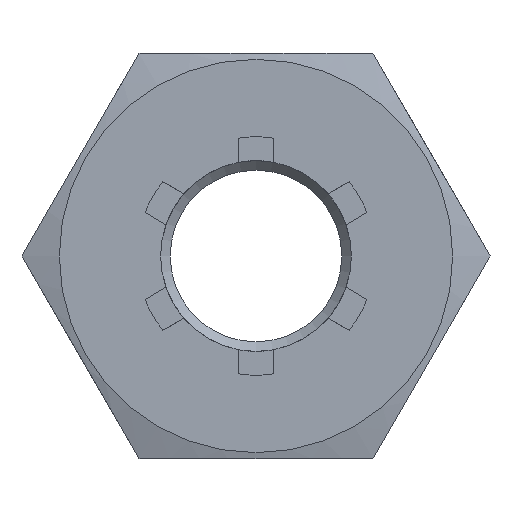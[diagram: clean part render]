
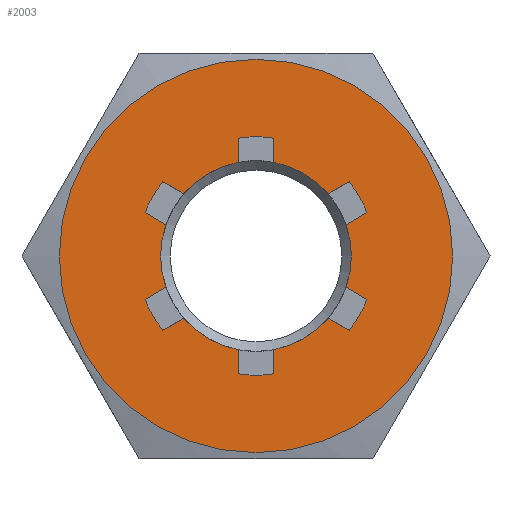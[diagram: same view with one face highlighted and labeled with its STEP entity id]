
A CAD part, left-side view. The second image highlights one B-rep face of the part: STEP entity #2003.
In plain terms, the highlighted planar face has unit normal (-1, 0, 0).
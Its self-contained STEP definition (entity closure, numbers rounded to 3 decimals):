
#20=PLANE('',#2127);
#209=LINE('',#2886,#339);
#210=LINE('',#2891,#340);
#211=LINE('',#2895,#341);
#212=LINE('',#2899,#342);
#213=LINE('',#2903,#343);
#214=LINE('',#2907,#344);
#215=LINE('',#2911,#345);
#216=LINE('',#2915,#346);
#217=LINE('',#2919,#347);
#218=LINE('',#2923,#348);
#219=LINE('',#2927,#349);
#220=LINE('',#2931,#350);
#339=VECTOR('',#2355,1000.);
#340=VECTOR('',#2358,1000.);
#341=VECTOR('',#2361,1000.);
#342=VECTOR('',#2364,1000.);
#343=VECTOR('',#2367,1000.);
#344=VECTOR('',#2370,1000.);
#345=VECTOR('',#2373,1000.);
#346=VECTOR('',#2376,1000.);
#347=VECTOR('',#2379,1000.);
#348=VECTOR('',#2382,1000.);
#349=VECTOR('',#2385,1000.);
#350=VECTOR('',#2388,1000.);
#487=ORIENTED_EDGE('',*,*,#1136,.T.);
#488=ORIENTED_EDGE('',*,*,#1137,.T.);
#489=ORIENTED_EDGE('',*,*,#1138,.T.);
#490=ORIENTED_EDGE('',*,*,#1139,.T.);
#491=ORIENTED_EDGE('',*,*,#1140,.T.);
#492=ORIENTED_EDGE('',*,*,#1141,.T.);
#493=ORIENTED_EDGE('',*,*,#1142,.T.);
#494=ORIENTED_EDGE('',*,*,#1143,.T.);
#495=ORIENTED_EDGE('',*,*,#1144,.T.);
#496=ORIENTED_EDGE('',*,*,#1145,.T.);
#497=ORIENTED_EDGE('',*,*,#1146,.T.);
#498=ORIENTED_EDGE('',*,*,#1147,.T.);
#499=ORIENTED_EDGE('',*,*,#1148,.T.);
#500=ORIENTED_EDGE('',*,*,#1149,.T.);
#501=ORIENTED_EDGE('',*,*,#1150,.T.);
#502=ORIENTED_EDGE('',*,*,#1151,.T.);
#503=ORIENTED_EDGE('',*,*,#1152,.T.);
#504=ORIENTED_EDGE('',*,*,#1153,.T.);
#505=ORIENTED_EDGE('',*,*,#1154,.T.);
#506=ORIENTED_EDGE('',*,*,#1155,.T.);
#507=ORIENTED_EDGE('',*,*,#1156,.T.);
#508=ORIENTED_EDGE('',*,*,#1157,.T.);
#509=ORIENTED_EDGE('',*,*,#1158,.T.);
#510=ORIENTED_EDGE('',*,*,#1159,.T.);
#511=ORIENTED_EDGE('',*,*,#1160,.F.);
#1136=EDGE_CURVE('',#1460,#1461,#209,.T.);
#1137=EDGE_CURVE('',#1461,#1462,#1666,.T.);
#1138=EDGE_CURVE('',#1462,#1463,#210,.T.);
#1139=EDGE_CURVE('',#1463,#1464,#1667,.T.);
#1140=EDGE_CURVE('',#1464,#1465,#211,.T.);
#1141=EDGE_CURVE('',#1465,#1466,#1668,.T.);
#1142=EDGE_CURVE('',#1466,#1467,#212,.T.);
#1143=EDGE_CURVE('',#1467,#1468,#1669,.T.);
#1144=EDGE_CURVE('',#1468,#1469,#213,.T.);
#1145=EDGE_CURVE('',#1469,#1470,#1670,.T.);
#1146=EDGE_CURVE('',#1470,#1471,#214,.T.);
#1147=EDGE_CURVE('',#1471,#1472,#1671,.T.);
#1148=EDGE_CURVE('',#1472,#1473,#215,.T.);
#1149=EDGE_CURVE('',#1473,#1474,#1672,.T.);
#1150=EDGE_CURVE('',#1474,#1475,#216,.T.);
#1151=EDGE_CURVE('',#1475,#1476,#1673,.T.);
#1152=EDGE_CURVE('',#1476,#1477,#217,.T.);
#1153=EDGE_CURVE('',#1477,#1478,#1674,.T.);
#1154=EDGE_CURVE('',#1478,#1479,#218,.T.);
#1155=EDGE_CURVE('',#1479,#1480,#1675,.T.);
#1156=EDGE_CURVE('',#1480,#1481,#219,.T.);
#1157=EDGE_CURVE('',#1481,#1482,#1676,.T.);
#1158=EDGE_CURVE('',#1482,#1483,#220,.T.);
#1159=EDGE_CURVE('',#1483,#1460,#1677,.T.);
#1160=EDGE_CURVE('',#1484,#1484,#1678,.T.);
#1460=VERTEX_POINT('',#2887);
#1461=VERTEX_POINT('',#2888);
#1462=VERTEX_POINT('',#2890);
#1463=VERTEX_POINT('',#2892);
#1464=VERTEX_POINT('',#2894);
#1465=VERTEX_POINT('',#2896);
#1466=VERTEX_POINT('',#2898);
#1467=VERTEX_POINT('',#2900);
#1468=VERTEX_POINT('',#2902);
#1469=VERTEX_POINT('',#2904);
#1470=VERTEX_POINT('',#2906);
#1471=VERTEX_POINT('',#2908);
#1472=VERTEX_POINT('',#2910);
#1473=VERTEX_POINT('',#2912);
#1474=VERTEX_POINT('',#2914);
#1475=VERTEX_POINT('',#2916);
#1476=VERTEX_POINT('',#2918);
#1477=VERTEX_POINT('',#2920);
#1478=VERTEX_POINT('',#2922);
#1479=VERTEX_POINT('',#2924);
#1480=VERTEX_POINT('',#2926);
#1481=VERTEX_POINT('',#2928);
#1482=VERTEX_POINT('',#2930);
#1483=VERTEX_POINT('',#2932);
#1484=VERTEX_POINT('',#2935);
#1666=CIRCLE('',#2128,4.);
#1667=CIRCLE('',#2129,4.999);
#1668=CIRCLE('',#2130,4.);
#1669=CIRCLE('',#2131,4.999);
#1670=CIRCLE('',#2132,4.);
#1671=CIRCLE('',#2133,4.999);
#1672=CIRCLE('',#2134,4.);
#1673=CIRCLE('',#2135,4.999);
#1674=CIRCLE('',#2136,4.);
#1675=CIRCLE('',#2137,4.999);
#1676=CIRCLE('',#2138,4.);
#1677=CIRCLE('',#2139,4.999);
#1678=CIRCLE('',#2140,8.25);
#1750=EDGE_LOOP('',(#487,#488,#489,#490,#491,#492,#493,#494,#495,#496,#497,
#498,#499,#500,#501,#502,#503,#504,#505,#506,#507,#508,#509,#510));
#1751=EDGE_LOOP('',(#511));
#1866=FACE_BOUND('',#1750,.T.);
#1867=FACE_BOUND('',#1751,.T.);
#2003=ADVANCED_FACE('',(#1866,#1867),#20,.T.);
#2127=AXIS2_PLACEMENT_3D('',#2885,#2353,#2354);
#2128=AXIS2_PLACEMENT_3D('',#2889,#2356,#2357);
#2129=AXIS2_PLACEMENT_3D('',#2893,#2359,#2360);
#2130=AXIS2_PLACEMENT_3D('',#2897,#2362,#2363);
#2131=AXIS2_PLACEMENT_3D('',#2901,#2365,#2366);
#2132=AXIS2_PLACEMENT_3D('',#2905,#2368,#2369);
#2133=AXIS2_PLACEMENT_3D('',#2909,#2371,#2372);
#2134=AXIS2_PLACEMENT_3D('',#2913,#2374,#2375);
#2135=AXIS2_PLACEMENT_3D('',#2917,#2377,#2378);
#2136=AXIS2_PLACEMENT_3D('',#2921,#2380,#2381);
#2137=AXIS2_PLACEMENT_3D('',#2925,#2383,#2384);
#2138=AXIS2_PLACEMENT_3D('',#2929,#2386,#2387);
#2139=AXIS2_PLACEMENT_3D('',#2933,#2389,#2390);
#2140=AXIS2_PLACEMENT_3D('',#2934,#2391,#2392);
#2353=DIRECTION('',(-1.,0.,0.));
#2354=DIRECTION('',(0.,0.,1.));
#2355=DIRECTION('',(0.,-0.866,0.5));
#2356=DIRECTION('',(1.,0.,0.));
#2357=DIRECTION('',(0.,0.,-1.));
#2358=DIRECTION('',(0.,0.866,0.5));
#2359=DIRECTION('',(1.,0.,0.));
#2360=DIRECTION('',(0.,0.,-1.));
#2361=DIRECTION('',(0.,-0.866,-0.5));
#2362=DIRECTION('',(1.,0.,0.));
#2363=DIRECTION('',(0.,0.,-1.));
#2364=DIRECTION('',(0.,0.,1.));
#2365=DIRECTION('',(1.,0.,0.));
#2366=DIRECTION('',(0.,0.,-1.));
#2367=DIRECTION('',(0.,0.,-1.));
#2368=DIRECTION('',(1.,0.,0.));
#2369=DIRECTION('',(0.,0.,-1.));
#2370=DIRECTION('',(0.,-0.866,0.5));
#2371=DIRECTION('',(1.,0.,0.));
#2372=DIRECTION('',(0.,0.,-1.));
#2373=DIRECTION('',(0.,0.866,-0.5));
#2374=DIRECTION('',(1.,0.,0.));
#2375=DIRECTION('',(0.,0.,-1.));
#2376=DIRECTION('',(0.,-0.866,-0.5));
#2377=DIRECTION('',(1.,0.,0.));
#2378=DIRECTION('',(0.,0.,-1.));
#2379=DIRECTION('',(0.,0.866,0.5));
#2380=DIRECTION('',(1.,0.,0.));
#2381=DIRECTION('',(0.,0.,-1.));
#2382=DIRECTION('',(0.,0.,-1.));
#2383=DIRECTION('',(1.,0.,0.));
#2384=DIRECTION('',(0.,0.,-1.));
#2385=DIRECTION('',(0.,0.,1.));
#2386=DIRECTION('',(1.,0.,0.));
#2387=DIRECTION('',(0.,0.,-1.));
#2388=DIRECTION('',(0.,0.866,-0.5));
#2389=DIRECTION('',(1.,0.,0.));
#2390=DIRECTION('',(0.,0.,-1.));
#2391=DIRECTION('',(1.,0.,0.));
#2392=DIRECTION('',(0.,0.,-1.));
#2885=CARTESIAN_POINT('',(0.,5.1,0.));
#2886=CARTESIAN_POINT('',(0.,5.967,-2.579));
#2887=CARTESIAN_POINT('',(0.,4.655,-1.822));
#2888=CARTESIAN_POINT('',(0.,3.778,-1.315));
#2889=CARTESIAN_POINT('',(0.,0.,0.));
#2890=CARTESIAN_POINT('',(0.,3.778,1.315));
#2891=CARTESIAN_POINT('',(0.,1.5,0.));
#2892=CARTESIAN_POINT('',(0.,4.655,1.822));
#2893=CARTESIAN_POINT('',(0.,0.,0.));
#2894=CARTESIAN_POINT('',(0.,3.905,3.121));
#2895=CARTESIAN_POINT('',(0.,5.217,3.878));
#2896=CARTESIAN_POINT('',(0.,3.028,2.614));
#2897=CARTESIAN_POINT('',(0.,0.,0.));
#2898=CARTESIAN_POINT('',(0.,0.75,3.929));
#2899=CARTESIAN_POINT('',(0.,0.75,1.299));
#2900=CARTESIAN_POINT('',(0.,0.75,4.942));
#2901=CARTESIAN_POINT('',(0.,0.,0.));
#2902=CARTESIAN_POINT('',(0.,-0.75,4.942));
#2903=CARTESIAN_POINT('',(0.,-0.75,6.457));
#2904=CARTESIAN_POINT('',(0.,-0.75,3.929));
#2905=CARTESIAN_POINT('',(0.,0.,0.));
#2906=CARTESIAN_POINT('',(0.,-3.028,2.614));
#2907=CARTESIAN_POINT('',(0.,-0.75,1.299));
#2908=CARTESIAN_POINT('',(0.,-3.905,3.121));
#2909=CARTESIAN_POINT('',(0.,0.,0.));
#2910=CARTESIAN_POINT('',(0.,-4.655,1.822));
#2911=CARTESIAN_POINT('',(0.,-5.967,2.579));
#2912=CARTESIAN_POINT('',(0.,-3.778,1.315));
#2913=CARTESIAN_POINT('',(0.,0.,0.));
#2914=CARTESIAN_POINT('',(0.,-3.778,-1.315));
#2915=CARTESIAN_POINT('',(0.,-1.5,0.));
#2916=CARTESIAN_POINT('',(0.,-4.655,-1.822));
#2917=CARTESIAN_POINT('',(0.,0.,0.));
#2918=CARTESIAN_POINT('',(0.,-3.905,-3.121));
#2919=CARTESIAN_POINT('',(0.,-5.217,-3.878));
#2920=CARTESIAN_POINT('',(0.,-3.028,-2.614));
#2921=CARTESIAN_POINT('',(0.,0.,0.));
#2922=CARTESIAN_POINT('',(0.,-0.75,-3.929));
#2923=CARTESIAN_POINT('',(0.,-0.75,-1.299));
#2924=CARTESIAN_POINT('',(0.,-0.75,-4.942));
#2925=CARTESIAN_POINT('',(0.,0.,0.));
#2926=CARTESIAN_POINT('',(0.,0.75,-4.942));
#2927=CARTESIAN_POINT('',(0.,0.75,-6.457));
#2928=CARTESIAN_POINT('',(0.,0.75,-3.929));
#2929=CARTESIAN_POINT('',(0.,0.,0.));
#2930=CARTESIAN_POINT('',(0.,3.028,-2.614));
#2931=CARTESIAN_POINT('',(0.,0.75,-1.299));
#2932=CARTESIAN_POINT('',(0.,3.905,-3.121));
#2933=CARTESIAN_POINT('',(0.,0.,0.));
#2934=CARTESIAN_POINT('',(0.,0.,0.));
#2935=CARTESIAN_POINT('',(0.,0.,-8.25));
